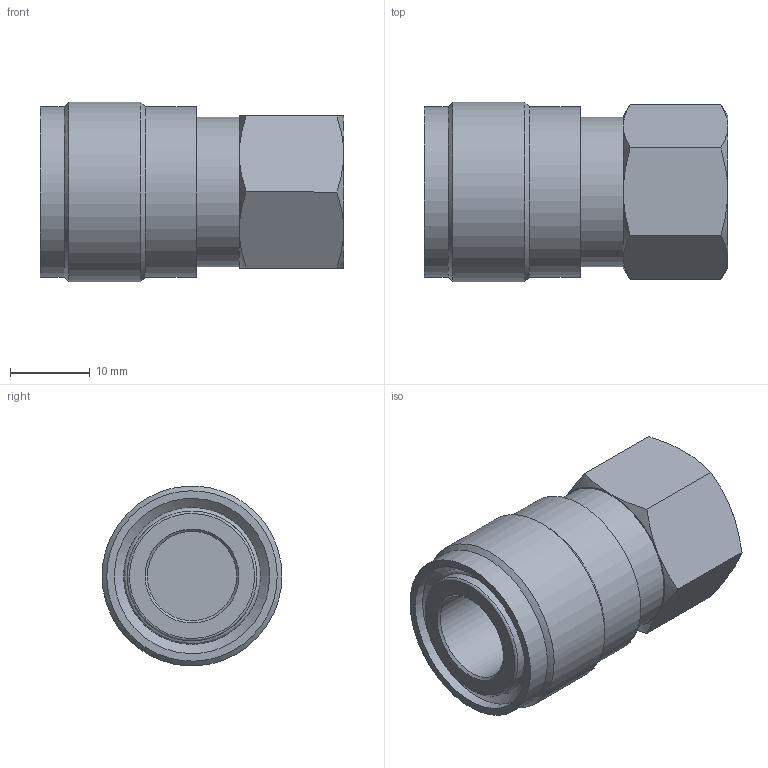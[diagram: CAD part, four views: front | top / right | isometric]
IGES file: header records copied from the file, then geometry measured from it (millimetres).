
Global section: file name: SFQC2B-F4N; native system: Autodesk Inventor 2016; preprocessor: unknown; author: 이승민,,11,0; organization: 20170208.020503; date: 20170208.202807; units: millimetre
Bounding box: 38.1 x 22.6 x 22.55 mm (x, y, z)
Volume: 10196.9 mm3; surface area: 4511.2 mm2
Topology: 1 solids, 1 shells, 46 faces, 116 edges, 79 vertices
Faces by surface type: bspline 46
